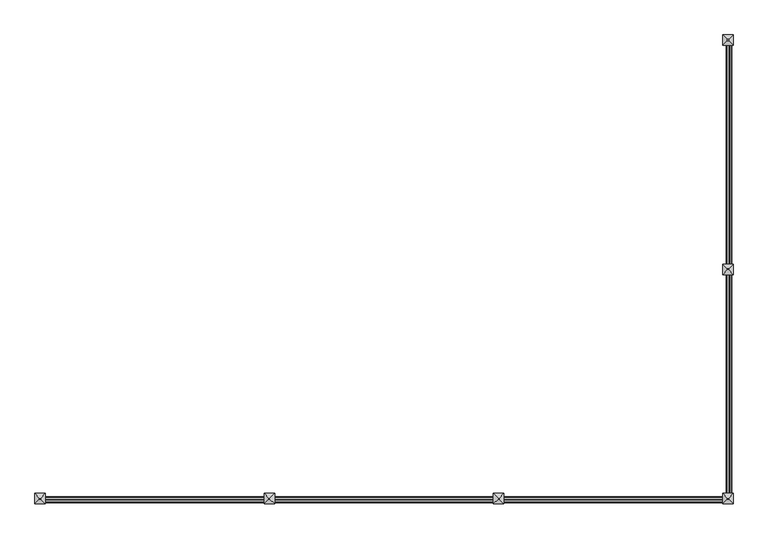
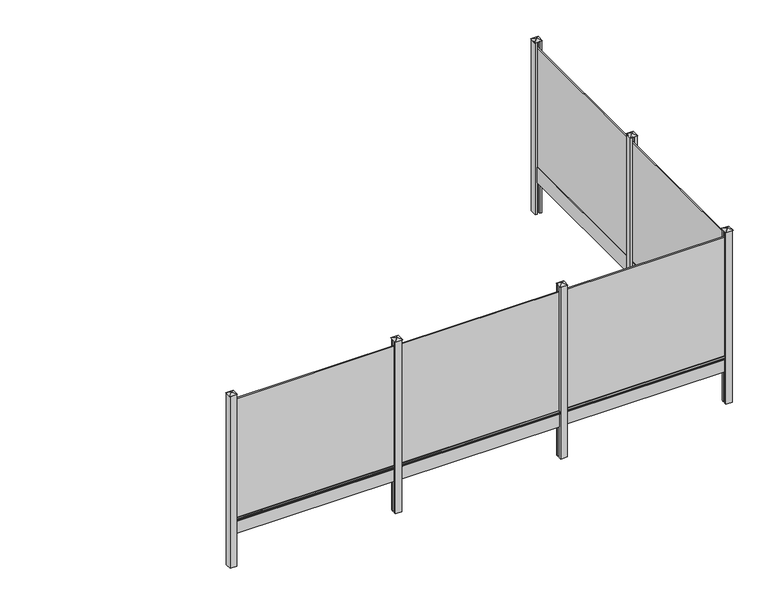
"""IFC4 building model written with IfcOpenShell, lengths in millimetres: railing geometry, Mehat - Railing - Plaque de Soubassement - Classique pour clôture rigide - 245x25x3.8 cm."""

from ifc_helpers import new_model, si_unit, point, frame, frame_2d, origin, origin_with_axes, place, context, project, spatial, polyline, circle_curve, trimmed, segment, composite_curve, outline, extrude, faceted_brep, source, transform, mapped, element, save


def railing_d98ad82b(model_context):
    return source(origin(), model_context, "Body", "SolidModel", [
        extrude(outline(polyline([(232896.2516516, -10877.4943936), (232879.2516516, -10877.4943936), (232879.2516516, -8427.4943936), (232896.2516516, -8427.4943936), (232896.2516516, -10877.4943936)])), frame((0.0, 0.0, 250.0), z_axis=(0.0, 0.0, 1.0), x_axis=(1.0, 0.0, 0.0)), (0.0, 0.0, 1.0), 1900.0),
        extrude(outline(polyline([(232906.7516516, -10877.4943936), (232868.7516516, -10877.4943936), (232868.7516516, -8427.4943936), (232906.7516516, -8427.4943936), (232906.7516516, -10877.4943936)])), origin_with_axes(), (0.0, 0.0, 1.0), 250.0),
        extrude(outline(composite_curve([segment(polyline([(210.0, 232906.7516516), (217.1937129, 232928.3327905)]), True, "CONTINUOUS"), segment(trimmed(circle_curve(frame_2d((221.9371294, 232926.7516516)), 5.0), [point((217.1937129, 232928.3327905))], [point((221.9371294, 232931.7516516))], False, "CARTESIAN"), True, "CONTINUOUS"), segment(polyline([(221.9371294, 232931.7516516), (238.0628706, 232931.7516516)]), True, "CONTINUOUS"), segment(trimmed(circle_curve(frame_2d((238.0628706, 232926.7516516)), 5.0), [point((238.0628706, 232931.7516516))], [point((242.8062871, 232928.3327905))], False, "CARTESIAN"), True, "CONTINUOUS"), segment(polyline([(242.8062871, 232928.3327905), (250.0, 232906.7516516), (210.0, 232906.7516516)]), True, "CONTINUOUS")], self_intersect=False)), frame((0.0, -10852.4943936, 0.0), z_axis=(0.0, 1.0, 0.0), x_axis=(0.0, 0.0, 1.0)), (0.0, 0.0, 1.0), 2400.0),
        extrude(outline(polyline([(232937.7516516, -10952.4943936), (232906.7516516, -10952.4943936), (232906.7516516, -10927.4943936), (232868.7516516, -10927.4943936), (232868.7516516, -10952.4943936), (232837.7516516, -10952.4943936), (232837.7516516, -10852.4943936), (232868.7516516, -10852.4943936), (232868.7516516, -10877.4943936), (232906.7516516, -10877.4943936), (232906.7516516, -10852.4943936), (232937.7516516, -10852.4943936), (232937.7516516, -10952.4943936)])), frame((0.0, 0.0, -500.0), z_axis=(0.0, 0.0, 1.0), x_axis=(1.0, 0.0, 0.0)), (0.0, 0.0, 1.0), 2750.0),
        faceted_brep([(232881.3471055, -10896.1443936, 2275.4), (232881.3471055, -10908.8443936, 2275.4), (232894.0471055, -10908.8443936, 2275.4), (232894.0471055, -10896.1443936, 2275.4), (232831.4016516, -10846.1443936, 2250.0), (232944.1016516, -10846.1443936, 2250.0), (232944.1016516, -10958.8443936, 2250.0), (232831.4016516, -10958.8443936, 2250.0)], [[[0, 1, 2, 3]], [[4, 5, 6, 7]], [[4, 0, 3, 5]], [[5, 3, 2, 6]], [[6, 2, 1, 7]], [[7, 1, 0, 4]]]),
        extrude(outline(polyline([(232896.2516516, -13377.4943936), (232879.2516516, -13377.4943936), (232879.2516516, -10927.4943936), (232896.2516516, -10927.4943936), (232896.2516516, -13377.4943936)])), frame((0.0, 0.0, 250.0), z_axis=(0.0, 0.0, 1.0), x_axis=(1.0, 0.0, 0.0)), (0.0, 0.0, 1.0), 1900.0),
        extrude(outline(polyline([(232906.7516516, -13377.4943936), (232868.7516516, -13377.4943936), (232868.7516516, -10927.4943936), (232906.7516516, -10927.4943936), (232906.7516516, -13377.4943936)])), origin_with_axes(), (0.0, 0.0, 1.0), 250.0),
        extrude(outline(composite_curve([segment(polyline([(210.0, 232906.7516516), (217.1937129, 232928.3327905)]), True, "CONTINUOUS"), segment(trimmed(circle_curve(frame_2d((221.9371294, 232926.7516516)), 5.0), [point((217.1937129, 232928.3327905))], [point((221.9371294, 232931.7516516))], False, "CARTESIAN"), True, "CONTINUOUS"), segment(polyline([(221.9371294, 232931.7516516), (238.0628706, 232931.7516516)]), True, "CONTINUOUS"), segment(trimmed(circle_curve(frame_2d((238.0628706, 232926.7516516)), 5.0), [point((238.0628706, 232931.7516516))], [point((242.8062871, 232928.3327905))], False, "CARTESIAN"), True, "CONTINUOUS"), segment(polyline([(242.8062871, 232928.3327905), (250.0, 232906.7516516), (210.0, 232906.7516516)]), True, "CONTINUOUS")], self_intersect=False)), frame((0.0, -13352.4943936, 0.0), z_axis=(0.0, 1.0, 0.0), x_axis=(0.0, 0.0, 1.0)), (0.0, 0.0, 1.0), 2400.0),
        extrude(outline(polyline([(230412.7516516, -13410.9943936), (230412.7516516, -13393.9943936), (232862.7516516, -13393.9943936), (232862.7516516, -13410.9943936), (230412.7516516, -13410.9943936)])), frame((0.0, 0.0, 250.0), z_axis=(0.0, 0.0, 1.0), x_axis=(1.0, 0.0, 0.0)), (0.0, 0.0, 1.0), 1900.0),
        extrude(outline(polyline([(230412.7516516, -13421.4943936), (230412.7516516, -13383.4943936), (232862.7516516, -13383.4943936), (232862.7516516, -13421.4943936), (230412.7516516, -13421.4943936)])), origin_with_axes(), (0.0, 0.0, 1.0), 250.0),
        extrude(outline(composite_curve([segment(polyline([(-13421.4943936, 210.0), (-13443.0755325, 217.1937129)]), True, "CONTINUOUS"), segment(trimmed(circle_curve(frame_2d((-13441.4943936, 221.9371294)), 5.0), [point((-13443.0755325, 217.1937129))], [point((-13446.4943936, 221.9371294))], False, "CARTESIAN"), True, "CONTINUOUS"), segment(polyline([(-13446.4943936, 221.9371294), (-13446.4943936, 238.0628706)]), True, "CONTINUOUS"), segment(trimmed(circle_curve(frame_2d((-13441.4943936, 238.0628706)), 5.0), [point((-13446.4943936, 238.0628706))], [point((-13443.0755325, 242.8062871))], False, "CARTESIAN"), True, "CONTINUOUS"), segment(polyline([(-13443.0755325, 242.8062871), (-13421.4943936, 250.0), (-13421.4943936, 210.0)]), True, "CONTINUOUS")], self_intersect=False)), frame((230437.7516516, 0.0, 0.0), z_axis=(1.0, 0.0, 0.0), x_axis=(0.0, 1.0, 0.0)), (0.0, 0.0, 1.0), 2400.0),
        extrude(outline(polyline([(230337.7516516, -13452.4943936), (230337.7516516, -13421.4943936), (230362.7516516, -13421.4943936), (230362.7516516, -13383.4943936), (230337.7516516, -13383.4943936), (230337.7516516, -13352.4943936), (230437.7516516, -13352.4943936), (230437.7516516, -13383.4943936), (230412.7516516, -13383.4943936), (230412.7516516, -13421.4943936), (230437.7516516, -13421.4943936), (230437.7516516, -13452.4943936), (230337.7516516, -13452.4943936)])), frame((0.0, 0.0, -500.0), z_axis=(0.0, 0.0, 1.0), x_axis=(1.0, 0.0, 0.0)), (0.0, 0.0, 1.0), 2750.0),
        faceted_brep([(230394.1016516, -13396.0898475, 2275.4), (230381.4016516, -13396.0898475, 2275.4), (230381.4016516, -13408.7898475, 2275.4), (230394.1016516, -13408.7898475, 2275.4), (230444.1016516, -13346.1443936, 2250.0), (230444.1016516, -13458.8443936, 2250.0), (230331.4016516, -13458.8443936, 2250.0), (230331.4016516, -13346.1443936, 2250.0)], [[[0, 1, 2, 3]], [[4, 5, 6, 7]], [[4, 0, 3, 5]], [[5, 3, 2, 6]], [[6, 2, 1, 7]], [[7, 1, 0, 4]]]),
        extrude(outline(polyline([(227912.7516516, -13410.9943936), (227912.7516516, -13393.9943936), (230362.7516516, -13393.9943936), (230362.7516516, -13410.9943936), (227912.7516516, -13410.9943936)])), frame((0.0, 0.0, 250.0), z_axis=(0.0, 0.0, 1.0), x_axis=(1.0, 0.0, 0.0)), (0.0, 0.0, 1.0), 1900.0),
        extrude(outline(polyline([(227912.7516516, -13421.4943936), (227912.7516516, -13383.4943936), (230362.7516516, -13383.4943936), (230362.7516516, -13421.4943936), (227912.7516516, -13421.4943936)])), origin_with_axes(), (0.0, 0.0, 1.0), 250.0),
        extrude(outline(composite_curve([segment(polyline([(-13421.4943936, 210.0), (-13443.0755325, 217.1937129)]), True, "CONTINUOUS"), segment(trimmed(circle_curve(frame_2d((-13441.4943936, 221.9371294)), 5.0), [point((-13443.0755325, 217.1937129))], [point((-13446.4943936, 221.9371294))], False, "CARTESIAN"), True, "CONTINUOUS"), segment(polyline([(-13446.4943936, 221.9371294), (-13446.4943936, 238.0628706)]), True, "CONTINUOUS"), segment(trimmed(circle_curve(frame_2d((-13441.4943936, 238.0628706)), 5.0), [point((-13446.4943936, 238.0628706))], [point((-13443.0755325, 242.8062871))], False, "CARTESIAN"), True, "CONTINUOUS"), segment(polyline([(-13443.0755325, 242.8062871), (-13421.4943936, 250.0), (-13421.4943936, 210.0)]), True, "CONTINUOUS")], self_intersect=False)), frame((227937.7516516, 0.0, 0.0), z_axis=(1.0, 0.0, 0.0), x_axis=(0.0, 1.0, 0.0)), (0.0, 0.0, 1.0), 2400.0),
        extrude(outline(polyline([(227837.7516516, -13452.4943936), (227837.7516516, -13421.4943936), (227862.7516516, -13421.4943936), (227862.7516516, -13383.4943936), (227837.7516516, -13383.4943936), (227837.7516516, -13352.4943936), (227937.7516516, -13352.4943936), (227937.7516516, -13383.4943936), (227912.7516516, -13383.4943936), (227912.7516516, -13421.4943936), (227937.7516516, -13421.4943936), (227937.7516516, -13452.4943936), (227837.7516516, -13452.4943936)])), frame((0.0, 0.0, -500.0), z_axis=(0.0, 0.0, 1.0), x_axis=(1.0, 0.0, 0.0)), (0.0, 0.0, 1.0), 2750.0),
        faceted_brep([(227894.1016516, -13396.0898475, 2275.4), (227881.4016516, -13396.0898475, 2275.4), (227881.4016516, -13408.7898475, 2275.4), (227894.1016516, -13408.7898475, 2275.4), (227944.1016516, -13346.1443936, 2250.0), (227944.1016516, -13458.8443936, 2250.0), (227831.4016516, -13458.8443936, 2250.0), (227831.4016516, -13346.1443936, 2250.0)], [[[0, 1, 2, 3]], [[4, 5, 6, 7]], [[4, 0, 3, 5]], [[5, 3, 2, 6]], [[6, 2, 1, 7]], [[7, 1, 0, 4]]]),
        extrude(outline(polyline([(225412.7516516, -13410.9943936), (225412.7516516, -13393.9943936), (227862.7516516, -13393.9943936), (227862.7516516, -13410.9943936), (225412.7516516, -13410.9943936)])), frame((0.0, 0.0, 250.0), z_axis=(0.0, 0.0, 1.0), x_axis=(1.0, 0.0, 0.0)), (0.0, 0.0, 1.0), 1900.0),
        extrude(outline(polyline([(225412.7516516, -13421.4943936), (225412.7516516, -13383.4943936), (227862.7516516, -13383.4943936), (227862.7516516, -13421.4943936), (225412.7516516, -13421.4943936)])), origin_with_axes(), (0.0, 0.0, 1.0), 250.0),
        extrude(outline(composite_curve([segment(polyline([(-13421.4943936, 210.0), (-13443.0755325, 217.1937129)]), True, "CONTINUOUS"), segment(trimmed(circle_curve(frame_2d((-13441.4943936, 221.9371294)), 5.0), [point((-13443.0755325, 217.1937129))], [point((-13446.4943936, 221.9371294))], False, "CARTESIAN"), True, "CONTINUOUS"), segment(polyline([(-13446.4943936, 221.9371294), (-13446.4943936, 238.0628706)]), True, "CONTINUOUS"), segment(trimmed(circle_curve(frame_2d((-13441.4943936, 238.0628706)), 5.0), [point((-13446.4943936, 238.0628706))], [point((-13443.0755325, 242.8062871))], False, "CARTESIAN"), True, "CONTINUOUS"), segment(polyline([(-13443.0755325, 242.8062871), (-13421.4943936, 250.0), (-13421.4943936, 210.0)]), True, "CONTINUOUS")], self_intersect=False)), frame((225437.7516516, 0.0, 0.0), z_axis=(1.0, 0.0, 0.0), x_axis=(0.0, 1.0, 0.0)), (0.0, 0.0, 1.0), 2400.0),
        extrude(outline(polyline([(232837.7516516, -13452.4943936), (232837.7516516, -13421.4943936), (232862.7516516, -13421.4943936), (232862.7516516, -13383.4943936), (232837.7516516, -13383.4943936), (232837.7516516, -13352.4943936), (232868.7516516, -13352.4943936), (232868.7516516, -13377.4943936), (232906.7516516, -13377.4943936), (232906.7516516, -13352.4943936), (232937.7516516, -13352.4943936), (232937.7516516, -13452.4943936), (232837.7516516, -13452.4943936)])), frame((0.0, 0.0, -500.0), z_axis=(0.0, 0.0, 1.0), x_axis=(1.0, 0.0, 0.0)), (0.0, 0.0, 1.0), 2750.0),
        faceted_brep([(232894.1016516, -13396.0898475, 2275.4), (232881.4016516, -13396.0898475, 2275.4), (232881.4016516, -13408.7898475, 2275.4), (232894.1016516, -13408.7898475, 2275.4), (232944.1016516, -13346.1443936, 2250.0), (232944.1016516, -13458.8443936, 2250.0), (232831.4016516, -13458.8443936, 2250.0), (232831.4016516, -13346.1443936, 2250.0)], [[[0, 1, 2, 3]], [[4, 5, 6, 7]], [[4, 0, 3, 5]], [[5, 3, 2, 6]], [[6, 2, 1, 7]], [[7, 1, 0, 4]]]),
        extrude(outline(polyline([(232937.7516516, -8452.4943936), (232906.7516516, -8452.4943936), (232906.7516516, -8427.4943936), (232868.7516516, -8427.4943936), (232868.7516516, -8452.4943936), (232837.7516516, -8452.4943936), (232837.7516516, -8352.4943936), (232937.7516516, -8352.4943936), (232937.7516516, -8452.4943936)])), frame((0.0, 0.0, -500.0), z_axis=(0.0, 0.0, 1.0), x_axis=(1.0, 0.0, 0.0)), (0.0, 0.0, 1.0), 2750.0),
        faceted_brep([(232881.3471055, -8396.1443936, 2275.4), (232881.3471055, -8408.8443936, 2275.4), (232894.0471055, -8408.8443936, 2275.4), (232894.0471055, -8396.1443936, 2275.4), (232831.4016516, -8346.1443936, 2250.0), (232944.1016516, -8346.1443936, 2250.0), (232944.1016516, -8458.8443936, 2250.0), (232831.4016516, -8458.8443936, 2250.0)], [[[0, 1, 2, 3]], [[4, 5, 6, 7]], [[4, 0, 3, 5]], [[5, 3, 2, 6]], [[6, 2, 1, 7]], [[7, 1, 0, 4]]]),
        extrude(outline(polyline([(225337.7516516, -13452.4943936), (225337.7516516, -13352.4943936), (225437.7516516, -13352.4943936), (225437.7516516, -13383.4943936), (225412.7516516, -13383.4943936), (225412.7516516, -13421.4943936), (225437.7516516, -13421.4943936), (225437.7516516, -13452.4943936), (225337.7516516, -13452.4943936)])), frame((0.0, 0.0, -500.0), z_axis=(0.0, 0.0, 1.0), x_axis=(1.0, 0.0, 0.0)), (0.0, 0.0, 1.0), 2750.0),
        faceted_brep([(225394.1016516, -13396.0898475, 2275.4), (225381.4016516, -13396.0898475, 2275.4), (225381.4016516, -13408.7898475, 2275.4), (225394.1016516, -13408.7898475, 2275.4), (225444.1016516, -13346.1443936, 2250.0), (225444.1016516, -13458.8443936, 2250.0), (225331.4016516, -13458.8443936, 2250.0), (225331.4016516, -13346.1443936, 2250.0)], [[[0, 1, 2, 3]], [[4, 5, 6, 7]], [[4, 0, 3, 5]], [[5, 3, 2, 6]], [[6, 2, 1, 7]], [[7, 1, 0, 4]]]),
    ])


if __name__ == "__main__":
    model = new_model("IFC4")
    model_context = context("Model", 3, world=origin())
    ifc_project = project(units=[si_unit("LENGTHUNIT", "METRE", prefix="MILLI")], contexts=[model_context])
    site = spatial("IfcSite", under=ifc_project)
    building = spatial("IfcBuilding", under=site)
    placement = place(None, origin())
    railing_shape = railing_d98ad82b(model_context)
    element("IfcRailing", 1, ObjectType="Mehat - Railing - Plaque de Soubassement - Classique pour clôture rigide - 245x25x3.8 cm", at=placement, inside=building, context=model_context, shape_type="MappedRepresentation", body=[
        mapped(railing_shape, transform((0.0, 0.0, 0.0), x_axis=(1.0, 0.0, 0.0), y_axis=(0.0, 1.0, 0.0), z_axis=(0.0, 0.0, 1.0))),
    ])
    save(model, "model.ifc")
